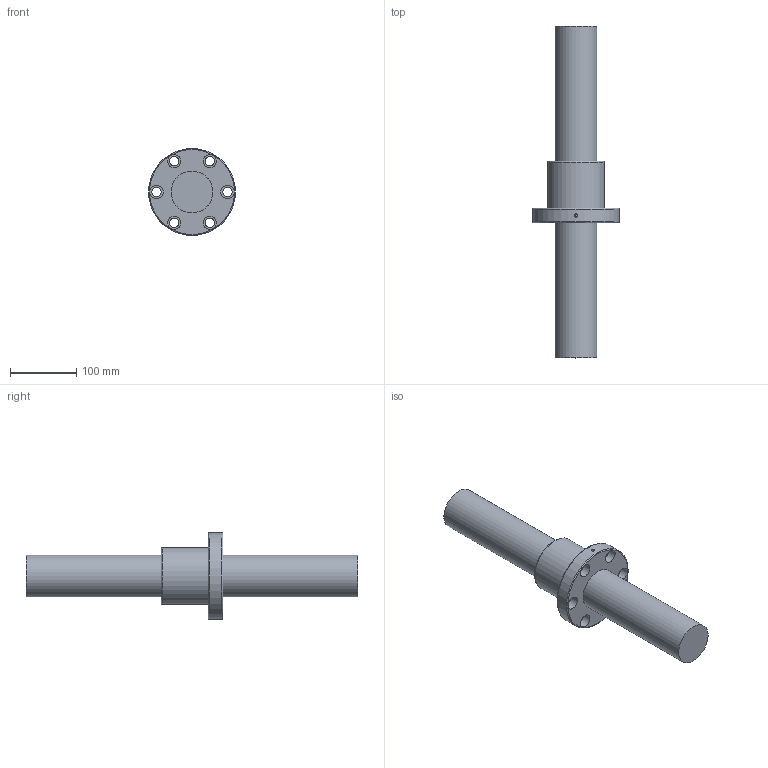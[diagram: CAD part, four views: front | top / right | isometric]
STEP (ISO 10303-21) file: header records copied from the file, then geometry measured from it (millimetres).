
FILE_DESCRIPTION (( 'STEP AP203' ), '1' );
FILE_NAME ('SFNI6310.STEP', '2023-06-06T07:02:18', ( '' ), ( '' ), 'SwSTEP 2.0', 'SolidWorks 2022', '' );
FILE_SCHEMA (( 'CONFIG_CONTROL_DESIGN' ));
Length unit declared in the file: millimetre
Products named in the file (1): SFNI6310
Bounding box: 131 x 500 x 131 mm (x, y, z)
Volume: 1935354.4 mm3; surface area: 177540 mm2
Topology: 2 solids, 2 shells, 34 faces, 66 edges, 44 vertices
Faces by surface type: cylinder 19, plane 12, torus 3
Full cylindrical faces by diameter (mm): 4 x1, 5 x1, 14 x6, 20 x6, 63 x2, 85 x1, 131 x1
Entity records: 1133 total; most frequent: CARTESIAN_POINT 399, DIRECTION 145, ORIENTED_EDGE 82, EDGE_LOOP 80, AXIS2_PLACEMENT_3D 72, FACE_OUTER_BOUND 55, VERTEX_POINT 41, EDGE_CURVE 41
